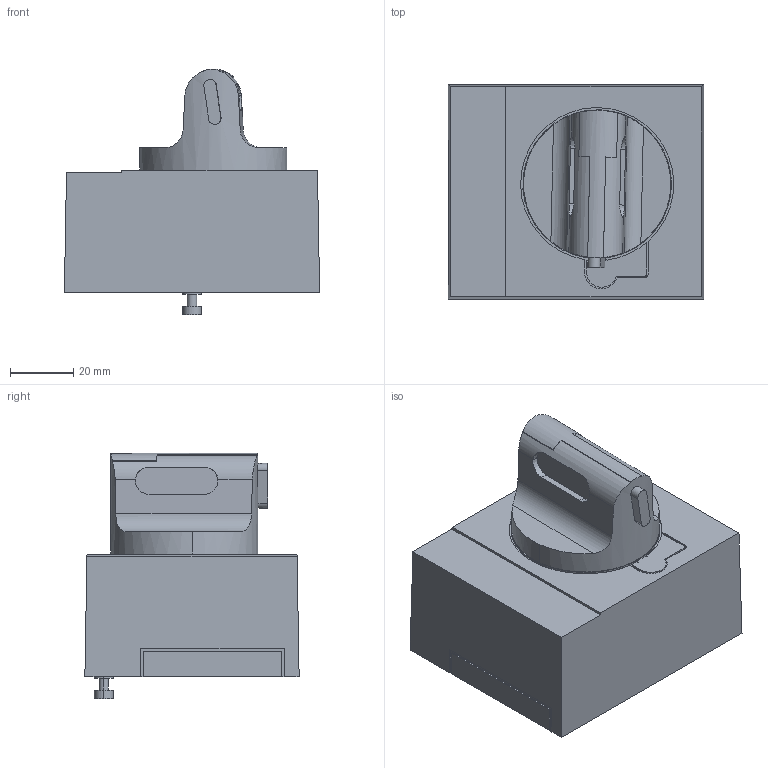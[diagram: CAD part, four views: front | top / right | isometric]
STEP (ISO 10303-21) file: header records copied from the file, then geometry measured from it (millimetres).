
FILE_DESCRIPTION((''),'2;1');
FILE_NAME('1625568856437_ASM','2021-07-06T16:24:37',('SESA176331'),('Schneider-Electric'),'CREO PARAMETRIC BY PTC INC, 2019164','CREO PARAMETRIC BY PTC INC, 2019164','');
FILE_SCHEMA(('AP242_MANAGED_MODEL_BASED_3D_ENGINEERING_MIM_LF { 1 0 10303 442 1 1 4 }'));
Length unit declared in the file: millimetre
Products named in the file (5): EMPTYNODE_1625568857030_ASM; LV426930T; LV426930T_KNOB; LV426930T-3D_ASM; 1625568856437_ASM
Assembly tree (4 placements, depth 3):
  1625568856437_ASM
    EMPTYNODE_1625568857030_ASM
    LV426930T-3D_ASM
      LV426930T
      LV426930T_KNOB
Bounding box: 81 x 68 x 77.85 mm (x, y, z)
Volume: 180697.6 mm3; surface area: 34614.5 mm2
Topology: 2 solids, 2 shells, 167 faces, 455 edges, 312 vertices
Faces by surface type: plane 102, cylinder 51, extrusion 14
Entity records: 7758 total; most frequent: CARTESIAN_POINT 1442, ORIENTED_EDGE 896, DIRECTION 857, PRESENTATION_STYLE_ASSIGNMENT 466, STYLED_ITEM 460, CURVE_STYLE 458, EDGE_CURVE 448, VECTOR 323
